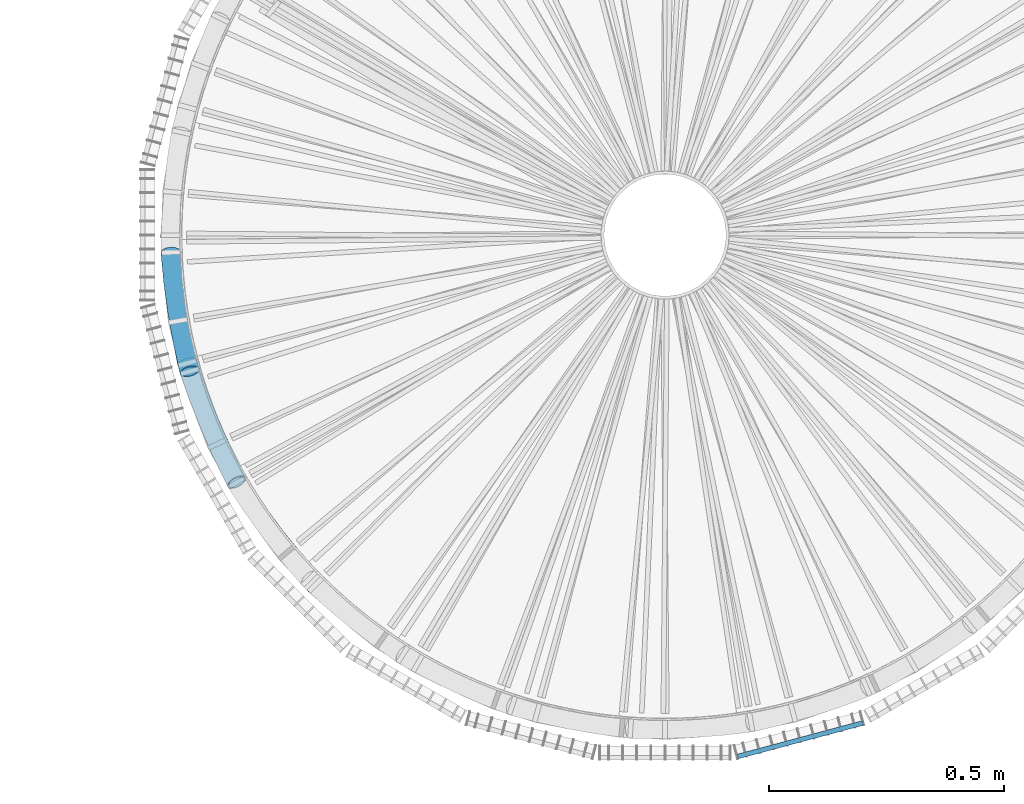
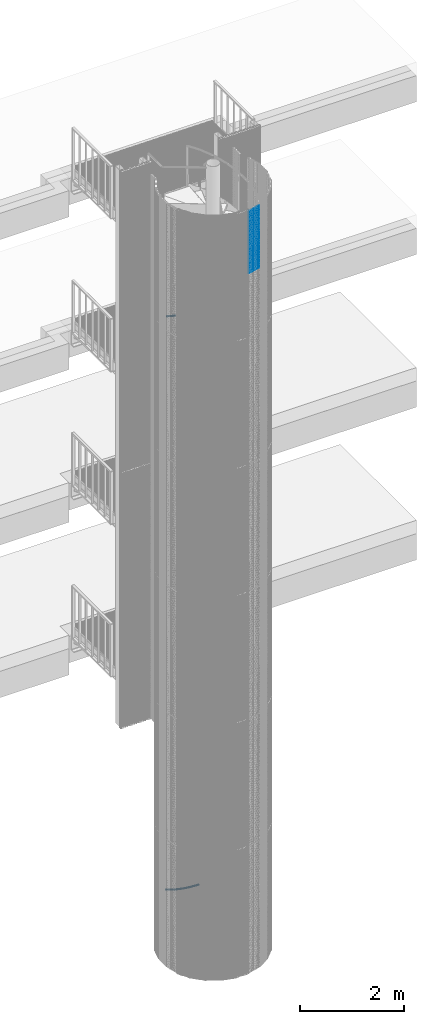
# One storey, part 135 of 1183: 50 beams, 4 members, 5 elements without a shape of their own.
"""IFC2X3 building model written with IfcOpenShell, lengths in millimetres."""

from ifc_helpers import new_model, entity, si_unit, frame, origin_with_axes, origin_2d_with_axis, place, context, subcontext, project, spatial, rectangle, extrude, material, type_object, element, aggregate, save


model = new_model("IFC2X3")

# Units and contexts
model_context = context("Model", 3, precision=1e-05, world=origin_with_axes())
body_context = subcontext(model_context, "Body", "Model", "MODEL_VIEW")
ifc_project = project(units=[si_unit("LENGTHUNIT", "METRE", prefix="MILLI"), si_unit("AREAUNIT", "SQUARE_METRE"), si_unit("VOLUMEUNIT", "CUBIC_METRE"), si_unit("MASSUNIT", "GRAM", prefix="KILO"), si_unit("TIMEUNIT", "SECOND"), si_unit("PLANEANGLEUNIT", "RADIAN"), si_unit("SOLIDANGLEUNIT", "STERADIAN"), si_unit("THERMODYNAMICTEMPERATUREUNIT", "DEGREE_CELSIUS"), si_unit("LUMINOUSINTENSITYUNIT", "LUMEN")], contexts=[model_context])

# Site, building, storey
site_placement = place(None, origin_with_axes())
site = spatial("IfcSite", under=ifc_project, at=site_placement, Name="Undefined", CompositionType="ELEMENT")
building_placement = place(site_placement, origin_with_axes())
building = spatial("IfcBuilding", under=site, at=building_placement, Name="Undefined", CompositionType="ELEMENT")
storey_placement = place(building_placement, origin_with_axes())
storey = spatial("IfcBuildingStorey", under=building, at=storey_placement, Name="Undefined", CompositionType="ELEMENT", Elevation=0.0)

# Assembly, beams
assembly_1_placement = place(storey_placement, origin_with_axes())
assembly_1 = element("IfcElementAssembly", 1, at=assembly_1_placement, inside=storey, Name="BORDURE", AssemblyPlace="NOTDEFINED", PredefinedType="NOTDEFINED")
ifc_material = material(Name="STEEL/S235JR")
beam_type = type_object("IfcBeamType", Name="PL2*10", PredefinedType="NOTDEFINED")
beam_1_placement = place(assembly_1_placement, frame((154.895926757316, -1111.25508286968, 17970.0), z_axis=(0.258819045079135, -0.965925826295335, 0.0), x_axis=(0.965925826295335, 0.258819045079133, 0.0)))
beam_1 = element("IfcBeam", 2, at=beam_1_placement, type_object=beam_type, material=ifc_material, Name="ENTRETOISE", context=body_context, shape_type="SweptSolid", body=[
    extrude(rectangle(XDim=2.0, YDim=10.0, at=origin_2d_with_axis()), frame((275.999999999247, 9.09494701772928e-13, 1.53210777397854e-14), z_axis=(-1.0, 0.0, 0.0), x_axis=(0.0, -1.0, 0.0)), (0.0, 0.0, 1.0), 276.0),
])
beam_2_placement = place(assembly_1_placement, frame((154.895926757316, -1111.25508286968, 17940.0), z_axis=(0.258819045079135, -0.965925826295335, 0.0), x_axis=(0.965925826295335, 0.258819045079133, 0.0)))
beam_2 = element("IfcBeam", 3, at=beam_2_placement, type_object=beam_type, material=ifc_material, Name="ENTRETOISE", context=body_context, shape_type="SweptSolid", body=[
    extrude(rectangle(XDim=2.0, YDim=10.0, at=origin_2d_with_axis()), frame((275.999999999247, 9.09494701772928e-13, 1.53210777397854e-14), z_axis=(-1.0, 0.0, 0.0), x_axis=(0.0, -1.0, 0.0)), (0.0, 0.0, 1.0), 276.0),
])
beam_3_placement = place(assembly_1_placement, frame((154.895926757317, -1111.25508286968, 17910.0), z_axis=(0.258819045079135, -0.965925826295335, 0.0), x_axis=(0.965925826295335, 0.258819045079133, 0.0)))
beam_3 = element("IfcBeam", 4, at=beam_3_placement, type_object=beam_type, material=ifc_material, Name="ENTRETOISE", context=body_context, shape_type="SweptSolid", body=[
    extrude(rectangle(XDim=2.0, YDim=10.0, at=origin_2d_with_axis()), frame((275.999999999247, 9.09494701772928e-13, 1.53210777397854e-14), z_axis=(-1.0, 0.0, 0.0), x_axis=(0.0, -1.0, 0.0)), (0.0, 0.0, 1.0), 276.0),
])
beam_4_placement = place(assembly_1_placement, frame((154.895926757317, -1111.25508286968, 17880.0), z_axis=(0.258819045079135, -0.965925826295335, 0.0), x_axis=(0.965925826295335, 0.258819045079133, 0.0)))
beam_4 = element("IfcBeam", 5, at=beam_4_placement, type_object=beam_type, material=ifc_material, Name="ENTRETOISE", context=body_context, shape_type="SweptSolid", body=[
    extrude(rectangle(XDim=2.0, YDim=10.0, at=origin_2d_with_axis()), frame((275.999999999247, 9.09494701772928e-13, 1.53210777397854e-14), z_axis=(-1.0, 0.0, 0.0), x_axis=(0.0, -1.0, 0.0)), (0.0, 0.0, 1.0), 276.0),
])
beam_5_placement = place(assembly_1_placement, frame((154.895926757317, -1111.25508286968, 17850.0), z_axis=(0.258819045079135, -0.965925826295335, 0.0), x_axis=(0.965925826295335, 0.258819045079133, 0.0)))
beam_5 = element("IfcBeam", 6, at=beam_5_placement, type_object=beam_type, material=ifc_material, Name="ENTRETOISE", context=body_context, shape_type="SweptSolid", body=[
    extrude(rectangle(XDim=2.0, YDim=10.0, at=origin_2d_with_axis()), frame((275.999999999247, 9.09494701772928e-13, 1.53210777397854e-14), z_axis=(-1.0, 0.0, 0.0), x_axis=(0.0, -1.0, 0.0)), (0.0, 0.0, 1.0), 276.0),
])
beam_6_placement = place(assembly_1_placement, frame((154.895926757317, -1111.25508286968, 17820.0), z_axis=(0.258819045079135, -0.965925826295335, 0.0), x_axis=(0.965925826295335, 0.258819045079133, 0.0)))
beam_6 = element("IfcBeam", 7, at=beam_6_placement, type_object=beam_type, material=ifc_material, Name="ENTRETOISE", context=body_context, shape_type="SweptSolid", body=[
    extrude(rectangle(XDim=2.0, YDim=10.0, at=origin_2d_with_axis()), frame((275.999999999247, 9.09494701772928e-13, 1.53210777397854e-14), z_axis=(-1.0, 0.0, 0.0), x_axis=(0.0, -1.0, 0.0)), (0.0, 0.0, 1.0), 276.0),
])
beam_7_placement = place(assembly_1_placement, frame((154.895926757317, -1111.25508286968, 17790.0), z_axis=(0.258819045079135, -0.965925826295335, 0.0), x_axis=(0.965925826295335, 0.258819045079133, 0.0)))
beam_7 = element("IfcBeam", 8, at=beam_7_placement, type_object=beam_type, material=ifc_material, Name="ENTRETOISE", context=body_context, shape_type="SweptSolid", body=[
    extrude(rectangle(XDim=2.0, YDim=10.0, at=origin_2d_with_axis()), frame((275.999999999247, 9.09494701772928e-13, 1.53210777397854e-14), z_axis=(-1.0, 0.0, 0.0), x_axis=(0.0, -1.0, 0.0)), (0.0, 0.0, 1.0), 276.0),
])
beam_8_placement = place(assembly_1_placement, frame((154.895926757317, -1111.25508286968, 17760.0), z_axis=(0.258819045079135, -0.965925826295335, 0.0), x_axis=(0.965925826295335, 0.258819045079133, 0.0)))
beam_8 = element("IfcBeam", 9, at=beam_8_placement, type_object=beam_type, material=ifc_material, Name="ENTRETOISE", context=body_context, shape_type="SweptSolid", body=[
    extrude(rectangle(XDim=2.0, YDim=10.0, at=origin_2d_with_axis()), frame((275.999999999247, 9.09494701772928e-13, 1.53210777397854e-14), z_axis=(-1.0, 0.0, 0.0), x_axis=(0.0, -1.0, 0.0)), (0.0, 0.0, 1.0), 276.0),
])
beam_9_placement = place(assembly_1_placement, frame((154.895926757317, -1111.25508286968, 17730.0), z_axis=(0.258819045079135, -0.965925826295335, 0.0), x_axis=(0.965925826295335, 0.258819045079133, 0.0)))
beam_9 = element("IfcBeam", 10, at=beam_9_placement, type_object=beam_type, material=ifc_material, Name="ENTRETOISE", context=body_context, shape_type="SweptSolid", body=[
    extrude(rectangle(XDim=2.0, YDim=10.0, at=origin_2d_with_axis()), frame((275.999999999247, 9.09494701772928e-13, 1.53210777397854e-14), z_axis=(-1.0, 0.0, 0.0), x_axis=(0.0, -1.0, 0.0)), (0.0, 0.0, 1.0), 276.0),
])
beam_10_placement = place(assembly_1_placement, frame((154.895926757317, -1111.25508286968, 17700.0), z_axis=(0.258819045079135, -0.965925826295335, 0.0), x_axis=(0.965925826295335, 0.258819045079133, 0.0)))
beam_10 = element("IfcBeam", 11, at=beam_10_placement, type_object=beam_type, material=ifc_material, Name="ENTRETOISE", context=body_context, shape_type="SweptSolid", body=[
    extrude(rectangle(XDim=2.0, YDim=10.0, at=origin_2d_with_axis()), frame((275.999999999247, 9.09494701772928e-13, 1.53210777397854e-14), z_axis=(-1.0, 0.0, 0.0), x_axis=(0.0, -1.0, 0.0)), (0.0, 0.0, 1.0), 276.0),
])
beam_11_placement = place(assembly_1_placement, frame((154.895926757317, -1111.25508286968, 17670.0), z_axis=(0.258819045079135, -0.965925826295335, 0.0), x_axis=(0.965925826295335, 0.258819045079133, 0.0)))
beam_11 = element("IfcBeam", 12, at=beam_11_placement, type_object=beam_type, material=ifc_material, Name="ENTRETOISE", context=body_context, shape_type="SweptSolid", body=[
    extrude(rectangle(XDim=2.0, YDim=10.0, at=origin_2d_with_axis()), frame((275.999999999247, 9.09494701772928e-13, 1.53210777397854e-14), z_axis=(-1.0, 0.0, 0.0), x_axis=(0.0, -1.0, 0.0)), (0.0, 0.0, 1.0), 276.0),
])
beam_12_placement = place(assembly_1_placement, frame((154.895926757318, -1111.25508286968, 17640.0), z_axis=(0.258819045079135, -0.965925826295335, 0.0), x_axis=(0.965925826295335, 0.258819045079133, 0.0)))
beam_12 = element("IfcBeam", 13, at=beam_12_placement, type_object=beam_type, material=ifc_material, Name="ENTRETOISE", context=body_context, shape_type="SweptSolid", body=[
    extrude(rectangle(XDim=2.0, YDim=10.0, at=origin_2d_with_axis()), frame((275.999999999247, 9.09494701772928e-13, 1.53210777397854e-14), z_axis=(-1.0, 0.0, 0.0), x_axis=(0.0, -1.0, 0.0)), (0.0, 0.0, 1.0), 276.0),
])
beam_13_placement = place(assembly_1_placement, frame((154.895926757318, -1111.25508286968, 17610.0), z_axis=(0.258819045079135, -0.965925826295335, 0.0), x_axis=(0.965925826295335, 0.258819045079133, 0.0)))
beam_13 = element("IfcBeam", 14, at=beam_13_placement, type_object=beam_type, material=ifc_material, Name="ENTRETOISE", context=body_context, shape_type="SweptSolid", body=[
    extrude(rectangle(XDim=2.0, YDim=10.0, at=origin_2d_with_axis()), frame((275.999999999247, 9.09494701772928e-13, 1.53210777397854e-14), z_axis=(-1.0, 0.0, 0.0), x_axis=(0.0, -1.0, 0.0)), (0.0, 0.0, 1.0), 276.0),
])
beam_14_placement = place(assembly_1_placement, frame((154.895926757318, -1111.25508286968, 17580.0), z_axis=(0.258819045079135, -0.965925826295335, 0.0), x_axis=(0.965925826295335, 0.258819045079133, 0.0)))
beam_14 = element("IfcBeam", 15, at=beam_14_placement, type_object=beam_type, material=ifc_material, Name="ENTRETOISE", context=body_context, shape_type="SweptSolid", body=[
    extrude(rectangle(XDim=2.0, YDim=10.0, at=origin_2d_with_axis()), frame((275.999999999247, 9.09494701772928e-13, 1.53210777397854e-14), z_axis=(-1.0, 0.0, 0.0), x_axis=(0.0, -1.0, 0.0)), (0.0, 0.0, 1.0), 276.0),
])
beam_15_placement = place(assembly_1_placement, frame((154.895926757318, -1111.25508286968, 17550.0), z_axis=(0.258819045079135, -0.965925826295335, 0.0), x_axis=(0.965925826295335, 0.258819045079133, 0.0)))
beam_15 = element("IfcBeam", 16, at=beam_15_placement, type_object=beam_type, material=ifc_material, Name="ENTRETOISE", context=body_context, shape_type="SweptSolid", body=[
    extrude(rectangle(XDim=2.0, YDim=10.0, at=origin_2d_with_axis()), frame((275.999999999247, 9.09494701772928e-13, 1.53210777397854e-14), z_axis=(-1.0, 0.0, 0.0), x_axis=(0.0, -1.0, 0.0)), (0.0, 0.0, 1.0), 276.0),
])
beam_16_placement = place(assembly_1_placement, frame((154.895926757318, -1111.25508286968, 17520.0), z_axis=(0.258819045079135, -0.965925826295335, 0.0), x_axis=(0.965925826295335, 0.258819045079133, 0.0)))
beam_16 = element("IfcBeam", 17, at=beam_16_placement, type_object=beam_type, material=ifc_material, Name="ENTRETOISE", context=body_context, shape_type="SweptSolid", body=[
    extrude(rectangle(XDim=2.0, YDim=10.0, at=origin_2d_with_axis()), frame((275.999999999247, 9.09494701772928e-13, 1.53210777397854e-14), z_axis=(-1.0, 0.0, 0.0), x_axis=(0.0, -1.0, 0.0)), (0.0, 0.0, 1.0), 276.0),
])
beam_17_placement = place(assembly_1_placement, frame((154.895926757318, -1111.25508286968, 17490.0), z_axis=(0.258819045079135, -0.965925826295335, 0.0), x_axis=(0.965925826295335, 0.258819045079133, 0.0)))
beam_17 = element("IfcBeam", 18, at=beam_17_placement, type_object=beam_type, material=ifc_material, Name="ENTRETOISE", context=body_context, shape_type="SweptSolid", body=[
    extrude(rectangle(XDim=2.0, YDim=10.0, at=origin_2d_with_axis()), frame((275.999999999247, 9.09494701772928e-13, 1.53210777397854e-14), z_axis=(-1.0, 0.0, 0.0), x_axis=(0.0, -1.0, 0.0)), (0.0, 0.0, 1.0), 276.0),
])
beam_18_placement = place(assembly_1_placement, frame((154.895926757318, -1111.25508286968, 17460.0), z_axis=(0.258819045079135, -0.965925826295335, 0.0), x_axis=(0.965925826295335, 0.258819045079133, 0.0)))
beam_18 = element("IfcBeam", 19, at=beam_18_placement, type_object=beam_type, material=ifc_material, Name="ENTRETOISE", context=body_context, shape_type="SweptSolid", body=[
    extrude(rectangle(XDim=2.0, YDim=10.0, at=origin_2d_with_axis()), frame((275.999999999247, 9.09494701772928e-13, 1.53210777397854e-14), z_axis=(-1.0, 0.0, 0.0), x_axis=(0.0, -1.0, 0.0)), (0.0, 0.0, 1.0), 276.0),
])
beam_19_placement = place(assembly_1_placement, frame((154.895926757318, -1111.25508286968, 17430.0), z_axis=(0.258819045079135, -0.965925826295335, 0.0), x_axis=(0.965925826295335, 0.258819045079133, 0.0)))
beam_19 = element("IfcBeam", 20, at=beam_19_placement, type_object=beam_type, material=ifc_material, Name="ENTRETOISE", context=body_context, shape_type="SweptSolid", body=[
    extrude(rectangle(XDim=2.0, YDim=10.0, at=origin_2d_with_axis()), frame((275.999999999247, 9.09494701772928e-13, 1.53210777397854e-14), z_axis=(-1.0, 0.0, 0.0), x_axis=(0.0, -1.0, 0.0)), (0.0, 0.0, 1.0), 276.0),
])
beam_20_placement = place(assembly_1_placement, frame((154.895926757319, -1111.25508286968, 17400.0), z_axis=(0.258819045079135, -0.965925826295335, 0.0), x_axis=(0.965925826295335, 0.258819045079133, 0.0)))
beam_20 = element("IfcBeam", 21, at=beam_20_placement, type_object=beam_type, material=ifc_material, Name="ENTRETOISE", context=body_context, shape_type="SweptSolid", body=[
    extrude(rectangle(XDim=2.0, YDim=10.0, at=origin_2d_with_axis()), frame((275.999999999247, 9.09494701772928e-13, 1.53210777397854e-14), z_axis=(-1.0, 0.0, 0.0), x_axis=(0.0, -1.0, 0.0)), (0.0, 0.0, 1.0), 276.0),
])
beam_21_placement = place(assembly_1_placement, frame((154.895926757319, -1111.25508286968, 17370.0), z_axis=(0.258819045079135, -0.965925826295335, 0.0), x_axis=(0.965925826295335, 0.258819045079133, 0.0)))
beam_21 = element("IfcBeam", 22, at=beam_21_placement, type_object=beam_type, material=ifc_material, Name="ENTRETOISE", context=body_context, shape_type="SweptSolid", body=[
    extrude(rectangle(XDim=2.0, YDim=10.0, at=origin_2d_with_axis()), frame((275.999999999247, 9.09494701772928e-13, 1.53210777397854e-14), z_axis=(-1.0, 0.0, 0.0), x_axis=(0.0, -1.0, 0.0)), (0.0, 0.0, 1.0), 276.0),
])
beam_22_placement = place(assembly_1_placement, frame((154.895926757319, -1111.25508286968, 17340.0), z_axis=(0.258819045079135, -0.965925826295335, 0.0), x_axis=(0.965925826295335, 0.258819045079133, 0.0)))
beam_22 = element("IfcBeam", 23, at=beam_22_placement, type_object=beam_type, material=ifc_material, Name="ENTRETOISE", context=body_context, shape_type="SweptSolid", body=[
    extrude(rectangle(XDim=2.0, YDim=10.0, at=origin_2d_with_axis()), frame((275.999999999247, 9.09494701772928e-13, 1.53210777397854e-14), z_axis=(-1.0, 0.0, 0.0), x_axis=(0.0, -1.0, 0.0)), (0.0, 0.0, 1.0), 276.0),
])
beam_23_placement = place(assembly_1_placement, frame((154.895926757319, -1111.25508286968, 17310.0), z_axis=(0.258819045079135, -0.965925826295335, 0.0), x_axis=(0.965925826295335, 0.258819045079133, 0.0)))
beam_23 = element("IfcBeam", 24, at=beam_23_placement, type_object=beam_type, material=ifc_material, Name="ENTRETOISE", context=body_context, shape_type="SweptSolid", body=[
    extrude(rectangle(XDim=2.0, YDim=10.0, at=origin_2d_with_axis()), frame((275.999999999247, 9.09494701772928e-13, 1.53210777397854e-14), z_axis=(-1.0, 0.0, 0.0), x_axis=(0.0, -1.0, 0.0)), (0.0, 0.0, 1.0), 276.0),
])
beam_24_placement = place(assembly_1_placement, frame((154.895926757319, -1111.25508286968, 17280.0), z_axis=(0.258819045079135, -0.965925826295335, 0.0), x_axis=(0.965925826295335, 0.258819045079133, 0.0)))
beam_24 = element("IfcBeam", 25, at=beam_24_placement, type_object=beam_type, material=ifc_material, Name="ENTRETOISE", context=body_context, shape_type="SweptSolid", body=[
    extrude(rectangle(XDim=2.0, YDim=10.0, at=origin_2d_with_axis()), frame((275.999999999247, 9.09494701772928e-13, 1.53210777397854e-14), z_axis=(-1.0, 0.0, 0.0), x_axis=(0.0, -1.0, 0.0)), (0.0, 0.0, 1.0), 276.0),
])
beam_25_placement = place(assembly_1_placement, frame((154.895926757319, -1111.25508286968, 17250.0), z_axis=(0.258819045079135, -0.965925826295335, 0.0), x_axis=(0.965925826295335, 0.258819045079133, 0.0)))
beam_25 = element("IfcBeam", 26, at=beam_25_placement, type_object=beam_type, material=ifc_material, Name="ENTRETOISE", context=body_context, shape_type="SweptSolid", body=[
    extrude(rectangle(XDim=2.0, YDim=10.0, at=origin_2d_with_axis()), frame((275.999999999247, 9.09494701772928e-13, 1.53210777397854e-14), z_axis=(-1.0, 0.0, 0.0), x_axis=(0.0, -1.0, 0.0)), (0.0, 0.0, 1.0), 276.0),
])
beam_26_placement = place(assembly_1_placement, frame((154.895926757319, -1111.25508286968, 17220.0), z_axis=(0.258819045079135, -0.965925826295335, 0.0), x_axis=(0.965925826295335, 0.258819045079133, 0.0)))
beam_26 = element("IfcBeam", 27, at=beam_26_placement, type_object=beam_type, material=ifc_material, Name="ENTRETOISE", context=body_context, shape_type="SweptSolid", body=[
    extrude(rectangle(XDim=2.0, YDim=10.0, at=origin_2d_with_axis()), frame((275.999999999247, 9.09494701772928e-13, 1.53210777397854e-14), z_axis=(-1.0, 0.0, 0.0), x_axis=(0.0, -1.0, 0.0)), (0.0, 0.0, 1.0), 276.0),
])
beam_27_placement = place(assembly_1_placement, frame((154.895926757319, -1111.25508286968, 17190.0), z_axis=(0.258819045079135, -0.965925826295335, 0.0), x_axis=(0.965925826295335, 0.258819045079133, 0.0)))
beam_27 = element("IfcBeam", 28, at=beam_27_placement, type_object=beam_type, material=ifc_material, Name="ENTRETOISE", context=body_context, shape_type="SweptSolid", body=[
    extrude(rectangle(XDim=2.0, YDim=10.0, at=origin_2d_with_axis()), frame((275.999999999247, 9.09494701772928e-13, 1.53210777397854e-14), z_axis=(-1.0, 0.0, 0.0), x_axis=(0.0, -1.0, 0.0)), (0.0, 0.0, 1.0), 276.0),
])
beam_28_placement = place(assembly_1_placement, frame((154.895926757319, -1111.25508286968, 17160.0), z_axis=(0.258819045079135, -0.965925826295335, 0.0), x_axis=(0.965925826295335, 0.258819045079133, 0.0)))
beam_28 = element("IfcBeam", 29, at=beam_28_placement, type_object=beam_type, material=ifc_material, Name="ENTRETOISE", context=body_context, shape_type="SweptSolid", body=[
    extrude(rectangle(XDim=2.0, YDim=10.0, at=origin_2d_with_axis()), frame((275.999999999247, 9.09494701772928e-13, 1.53210777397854e-14), z_axis=(-1.0, 0.0, 0.0), x_axis=(0.0, -1.0, 0.0)), (0.0, 0.0, 1.0), 276.0),
])
beam_29_placement = place(assembly_1_placement, frame((154.89592675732, -1111.25508286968, 17130.0), z_axis=(0.258819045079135, -0.965925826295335, 0.0), x_axis=(0.965925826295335, 0.258819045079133, 0.0)))
beam_29 = element("IfcBeam", 30, at=beam_29_placement, type_object=beam_type, material=ifc_material, Name="ENTRETOISE", context=body_context, shape_type="SweptSolid", body=[
    extrude(rectangle(XDim=2.0, YDim=10.0, at=origin_2d_with_axis()), frame((275.999999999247, 9.09494701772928e-13, 1.53210777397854e-14), z_axis=(-1.0, 0.0, 0.0), x_axis=(0.0, -1.0, 0.0)), (0.0, 0.0, 1.0), 276.0),
])
beam_30_placement = place(assembly_1_placement, frame((154.89592675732, -1111.25508286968, 17100.0), z_axis=(0.258819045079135, -0.965925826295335, 0.0), x_axis=(0.965925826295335, 0.258819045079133, 0.0)))
beam_30 = element("IfcBeam", 31, at=beam_30_placement, type_object=beam_type, material=ifc_material, Name="ENTRETOISE", context=body_context, shape_type="SweptSolid", body=[
    extrude(rectangle(XDim=2.0, YDim=10.0, at=origin_2d_with_axis()), frame((275.999999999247, 9.09494701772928e-13, 1.53210777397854e-14), z_axis=(-1.0, 0.0, 0.0), x_axis=(0.0, -1.0, 0.0)), (0.0, 0.0, 1.0), 276.0),
])
beam_31_placement = place(assembly_1_placement, frame((154.89592675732, -1111.25508286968, 17070.0), z_axis=(0.258819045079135, -0.965925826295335, 0.0), x_axis=(0.965925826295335, 0.258819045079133, 0.0)))
beam_31 = element("IfcBeam", 32, at=beam_31_placement, type_object=beam_type, material=ifc_material, Name="ENTRETOISE", context=body_context, shape_type="SweptSolid", body=[
    extrude(rectangle(XDim=2.0, YDim=10.0, at=origin_2d_with_axis()), frame((275.999999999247, 9.09494701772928e-13, 1.53210777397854e-14), z_axis=(-1.0, 0.0, 0.0), x_axis=(0.0, -1.0, 0.0)), (0.0, 0.0, 1.0), 276.0),
])
beam_32_placement = place(assembly_1_placement, frame((154.89592675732, -1111.25508286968, 17040.0), z_axis=(0.258819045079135, -0.965925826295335, 0.0), x_axis=(0.965925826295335, 0.258819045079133, 0.0)))
beam_32 = element("IfcBeam", 33, at=beam_32_placement, type_object=beam_type, material=ifc_material, Name="ENTRETOISE", context=body_context, shape_type="SweptSolid", body=[
    extrude(rectangle(XDim=2.0, YDim=10.0, at=origin_2d_with_axis()), frame((275.999999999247, 9.09494701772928e-13, 1.53210777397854e-14), z_axis=(-1.0, 0.0, 0.0), x_axis=(0.0, -1.0, 0.0)), (0.0, 0.0, 1.0), 276.0),
])
beam_33_placement = place(assembly_1_placement, frame((154.89592675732, -1111.25508286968, 17010.0), z_axis=(0.258819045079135, -0.965925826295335, 0.0), x_axis=(0.965925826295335, 0.258819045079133, 0.0)))
beam_33 = element("IfcBeam", 34, at=beam_33_placement, type_object=beam_type, material=ifc_material, Name="ENTRETOISE", context=body_context, shape_type="SweptSolid", body=[
    extrude(rectangle(XDim=2.0, YDim=10.0, at=origin_2d_with_axis()), frame((275.999999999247, 9.09494701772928e-13, 1.53210777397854e-14), z_axis=(-1.0, 0.0, 0.0), x_axis=(0.0, -1.0, 0.0)), (0.0, 0.0, 1.0), 276.0),
])
beam_34_placement = place(assembly_1_placement, frame((154.89592675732, -1111.25508286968, 16980.0), z_axis=(0.258819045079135, -0.965925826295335, 0.0), x_axis=(0.965925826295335, 0.258819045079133, 0.0)))
beam_34 = element("IfcBeam", 35, at=beam_34_placement, type_object=beam_type, material=ifc_material, Name="ENTRETOISE", context=body_context, shape_type="SweptSolid", body=[
    extrude(rectangle(XDim=2.0, YDim=10.0, at=origin_2d_with_axis()), frame((275.999999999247, 9.09494701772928e-13, 1.53210777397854e-14), z_axis=(-1.0, 0.0, 0.0), x_axis=(0.0, -1.0, 0.0)), (0.0, 0.0, 1.0), 276.0),
])
beam_35_placement = place(assembly_1_placement, frame((154.89592675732, -1111.25508286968, 16950.0), z_axis=(0.258819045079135, -0.965925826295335, 0.0), x_axis=(0.965925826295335, 0.258819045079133, 0.0)))
beam_35 = element("IfcBeam", 36, at=beam_35_placement, type_object=beam_type, material=ifc_material, Name="ENTRETOISE", context=body_context, shape_type="SweptSolid", body=[
    extrude(rectangle(XDim=2.0, YDim=10.0, at=origin_2d_with_axis()), frame((275.999999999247, 9.09494701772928e-13, 1.53210777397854e-14), z_axis=(-1.0, 0.0, 0.0), x_axis=(0.0, -1.0, 0.0)), (0.0, 0.0, 1.0), 276.0),
])
beam_36_placement = place(assembly_1_placement, frame((154.89592675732, -1111.25508286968, 16920.0), z_axis=(0.258819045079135, -0.965925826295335, 0.0), x_axis=(0.965925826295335, 0.258819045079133, 0.0)))
beam_36 = element("IfcBeam", 37, at=beam_36_placement, type_object=beam_type, material=ifc_material, Name="ENTRETOISE", context=body_context, shape_type="SweptSolid", body=[
    extrude(rectangle(XDim=2.0, YDim=10.0, at=origin_2d_with_axis()), frame((275.999999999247, 9.09494701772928e-13, 1.53210777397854e-14), z_axis=(-1.0, 0.0, 0.0), x_axis=(0.0, -1.0, 0.0)), (0.0, 0.0, 1.0), 276.0),
])
beam_37_placement = place(assembly_1_placement, frame((154.89592675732, -1111.25508286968, 16890.0), z_axis=(0.258819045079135, -0.965925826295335, 0.0), x_axis=(0.965925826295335, 0.258819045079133, 0.0)))
beam_37 = element("IfcBeam", 38, at=beam_37_placement, type_object=beam_type, material=ifc_material, Name="ENTRETOISE", context=body_context, shape_type="SweptSolid", body=[
    extrude(rectangle(XDim=2.0, YDim=10.0, at=origin_2d_with_axis()), frame((275.999999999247, 9.09494701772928e-13, 1.53210777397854e-14), z_axis=(-1.0, 0.0, 0.0), x_axis=(0.0, -1.0, 0.0)), (0.0, 0.0, 1.0), 276.0),
])
beam_38_placement = place(assembly_1_placement, frame((154.89592675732, -1111.25508286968, 16860.0), z_axis=(0.258819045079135, -0.965925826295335, 0.0), x_axis=(0.965925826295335, 0.258819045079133, 0.0)))
beam_38 = element("IfcBeam", 39, at=beam_38_placement, type_object=beam_type, material=ifc_material, Name="ENTRETOISE", context=body_context, shape_type="SweptSolid", body=[
    extrude(rectangle(XDim=2.0, YDim=10.0, at=origin_2d_with_axis()), frame((275.999999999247, 9.09494701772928e-13, 1.53210777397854e-14), z_axis=(-1.0, 0.0, 0.0), x_axis=(0.0, -1.0, 0.0)), (0.0, 0.0, 1.0), 276.0),
])
beam_39_placement = place(assembly_1_placement, frame((154.89592675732, -1111.25508286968, 16830.0), z_axis=(0.258819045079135, -0.965925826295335, 0.0), x_axis=(0.965925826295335, 0.258819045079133, 0.0)))
beam_39 = element("IfcBeam", 40, at=beam_39_placement, type_object=beam_type, material=ifc_material, Name="ENTRETOISE", context=body_context, shape_type="SweptSolid", body=[
    extrude(rectangle(XDim=2.0, YDim=10.0, at=origin_2d_with_axis()), frame((275.999999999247, 9.09494701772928e-13, 1.53210777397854e-14), z_axis=(-1.0, 0.0, 0.0), x_axis=(0.0, -1.0, 0.0)), (0.0, 0.0, 1.0), 276.0),
])
beam_40_placement = place(assembly_1_placement, frame((154.89592675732, -1111.25508286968, 16800.0), z_axis=(0.258819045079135, -0.965925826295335, 0.0), x_axis=(0.965925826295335, 0.258819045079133, 0.0)))
beam_40 = element("IfcBeam", 41, at=beam_40_placement, type_object=beam_type, material=ifc_material, Name="ENTRETOISE", context=body_context, shape_type="SweptSolid", body=[
    extrude(rectangle(XDim=2.0, YDim=10.0, at=origin_2d_with_axis()), frame((275.999999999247, 9.09494701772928e-13, 1.53210777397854e-14), z_axis=(-1.0, 0.0, 0.0), x_axis=(0.0, -1.0, 0.0)), (0.0, 0.0, 1.0), 276.0),
])
beam_41_placement = place(assembly_1_placement, frame((154.895926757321, -1111.25508286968, 16770.0), z_axis=(0.258819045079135, -0.965925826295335, 0.0), x_axis=(0.965925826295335, 0.258819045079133, 0.0)))
beam_41 = element("IfcBeam", 42, at=beam_41_placement, type_object=beam_type, material=ifc_material, Name="ENTRETOISE", context=body_context, shape_type="SweptSolid", body=[
    extrude(rectangle(XDim=2.0, YDim=10.0, at=origin_2d_with_axis()), frame((275.999999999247, 9.09494701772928e-13, 1.53210777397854e-14), z_axis=(-1.0, 0.0, 0.0), x_axis=(0.0, -1.0, 0.0)), (0.0, 0.0, 1.0), 276.0),
])
beam_42_placement = place(assembly_1_placement, frame((154.895926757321, -1111.25508286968, 16740.0), z_axis=(0.258819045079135, -0.965925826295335, 0.0), x_axis=(0.965925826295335, 0.258819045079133, 0.0)))
beam_42 = element("IfcBeam", 43, at=beam_42_placement, type_object=beam_type, material=ifc_material, Name="ENTRETOISE", context=body_context, shape_type="SweptSolid", body=[
    extrude(rectangle(XDim=2.0, YDim=10.0, at=origin_2d_with_axis()), frame((275.999999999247, 9.09494701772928e-13, 1.53210777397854e-14), z_axis=(-1.0, 0.0, 0.0), x_axis=(0.0, -1.0, 0.0)), (0.0, 0.0, 1.0), 276.0),
])
beam_43_placement = place(assembly_1_placement, frame((154.895926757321, -1111.25508286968, 16710.0), z_axis=(0.258819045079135, -0.965925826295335, 0.0), x_axis=(0.965925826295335, 0.258819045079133, 0.0)))
beam_43 = element("IfcBeam", 44, at=beam_43_placement, type_object=beam_type, material=ifc_material, Name="ENTRETOISE", context=body_context, shape_type="SweptSolid", body=[
    extrude(rectangle(XDim=2.0, YDim=10.0, at=origin_2d_with_axis()), frame((275.999999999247, 9.09494701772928e-13, 1.53210777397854e-14), z_axis=(-1.0, 0.0, 0.0), x_axis=(0.0, -1.0, 0.0)), (0.0, 0.0, 1.0), 276.0),
])
beam_44_placement = place(assembly_1_placement, frame((154.895926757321, -1111.25508286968, 16680.0), z_axis=(0.258819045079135, -0.965925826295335, 0.0), x_axis=(0.965925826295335, 0.258819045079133, 0.0)))
beam_44 = element("IfcBeam", 45, at=beam_44_placement, type_object=beam_type, material=ifc_material, Name="ENTRETOISE", context=body_context, shape_type="SweptSolid", body=[
    extrude(rectangle(XDim=2.0, YDim=10.0, at=origin_2d_with_axis()), frame((275.999999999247, 9.09494701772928e-13, 1.53210777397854e-14), z_axis=(-1.0, 0.0, 0.0), x_axis=(0.0, -1.0, 0.0)), (0.0, 0.0, 1.0), 276.0),
])
beam_45_placement = place(assembly_1_placement, frame((154.895926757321, -1111.25508286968, 16650.0), z_axis=(0.258819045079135, -0.965925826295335, 0.0), x_axis=(0.965925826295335, 0.258819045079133, 0.0)))
beam_45 = element("IfcBeam", 46, at=beam_45_placement, type_object=beam_type, material=ifc_material, Name="ENTRETOISE", context=body_context, shape_type="SweptSolid", body=[
    extrude(rectangle(XDim=2.0, YDim=10.0, at=origin_2d_with_axis()), frame((275.999999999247, 9.09494701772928e-13, 1.53210777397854e-14), z_axis=(-1.0, 0.0, 0.0), x_axis=(0.0, -1.0, 0.0)), (0.0, 0.0, 1.0), 276.0),
])
beam_46_placement = place(assembly_1_placement, frame((154.895926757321, -1111.25508286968, 16620.0), z_axis=(0.258819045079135, -0.965925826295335, 0.0), x_axis=(0.965925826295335, 0.258819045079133, 0.0)))
beam_46 = element("IfcBeam", 47, at=beam_46_placement, type_object=beam_type, material=ifc_material, Name="ENTRETOISE", context=body_context, shape_type="SweptSolid", body=[
    extrude(rectangle(XDim=2.0, YDim=10.0, at=origin_2d_with_axis()), frame((275.999999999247, 9.09494701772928e-13, 1.53210777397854e-14), z_axis=(-1.0, 0.0, 0.0), x_axis=(0.0, -1.0, 0.0)), (0.0, 0.0, 1.0), 276.0),
])
beam_47_placement = place(assembly_1_placement, frame((154.895926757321, -1111.25508286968, 16590.0), z_axis=(0.258819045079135, -0.965925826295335, 0.0), x_axis=(0.965925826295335, 0.258819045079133, 0.0)))
beam_47 = element("IfcBeam", 48, at=beam_47_placement, type_object=beam_type, material=ifc_material, Name="ENTRETOISE", context=body_context, shape_type="SweptSolid", body=[
    extrude(rectangle(XDim=2.0, YDim=10.0, at=origin_2d_with_axis()), frame((275.999999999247, 9.09494701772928e-13, 1.53210777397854e-14), z_axis=(-1.0, 0.0, 0.0), x_axis=(0.0, -1.0, 0.0)), (0.0, 0.0, 1.0), 276.0),
])
beam_48_placement = place(assembly_1_placement, frame((154.895926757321, -1111.25508286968, 16560.0), z_axis=(0.258819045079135, -0.965925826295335, 0.0), x_axis=(0.965925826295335, 0.258819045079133, 0.0)))
beam_48 = element("IfcBeam", 49, at=beam_48_placement, type_object=beam_type, material=ifc_material, Name="ENTRETOISE", context=body_context, shape_type="SweptSolid", body=[
    extrude(rectangle(XDim=2.0, YDim=10.0, at=origin_2d_with_axis()), frame((275.999999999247, 9.09494701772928e-13, 1.53210777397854e-14), z_axis=(-1.0, 0.0, 0.0), x_axis=(0.0, -1.0, 0.0)), (0.0, 0.0, 1.0), 276.0),
])
beam_49_placement = place(assembly_1_placement, frame((154.895926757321, -1111.25508286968, 16530.0), z_axis=(0.258819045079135, -0.965925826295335, 0.0), x_axis=(0.965925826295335, 0.258819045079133, 0.0)))
beam_49 = element("IfcBeam", 50, at=beam_49_placement, type_object=beam_type, material=ifc_material, Name="ENTRETOISE", context=body_context, shape_type="SweptSolid", body=[
    extrude(rectangle(XDim=2.0, YDim=10.0, at=origin_2d_with_axis()), frame((275.999999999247, 9.09494701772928e-13, 1.53210777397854e-14), z_axis=(-1.0, 0.0, 0.0), x_axis=(0.0, -1.0, 0.0)), (0.0, 0.0, 1.0), 276.0),
])
beam_50_placement = place(assembly_1_placement, frame((154.895926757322, -1111.25508286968, 16500.0), z_axis=(0.258819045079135, -0.965925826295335, 0.0), x_axis=(0.965925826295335, 0.258819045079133, 0.0)))
beam_50 = element("IfcBeam", 51, at=beam_50_placement, type_object=beam_type, material=ifc_material, Name="ENTRETOISE", context=body_context, shape_type="SweptSolid", body=[
    extrude(rectangle(XDim=2.0, YDim=10.0, at=origin_2d_with_axis()), frame((275.999999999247, 9.09494701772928e-13, 1.53210777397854e-14), z_axis=(-1.0, 0.0, 0.0), x_axis=(0.0, -1.0, 0.0)), (0.0, 0.0, 1.0), 276.0),
])
aggregate(assembly_1, [beam_1, beam_2, beam_3, beam_4, beam_5, beam_6, beam_7, beam_8, beam_9, beam_10, beam_11, beam_12, beam_13, beam_14, beam_15, beam_16, beam_17, beam_18, beam_19, beam_20, beam_21, beam_22, beam_23, beam_24, beam_25, beam_26, beam_27, beam_28, beam_29, beam_30, beam_31, beam_32, beam_33, beam_34, beam_35, beam_36, beam_37, beam_38, beam_39, beam_40, beam_41, beam_42, beam_43, beam_44, beam_45, beam_46, beam_47, beam_48, beam_49, beam_50])

# Assembly, member
assembly_2_placement = place(storey_placement, origin_with_axes())
assembly_2 = element("IfcElementAssembly", 52, at=assembly_2_placement, inside=storey, Name="MONTANT", AssemblyPlace="NOTDEFINED", PredefinedType="NOTDEFINED")
member_type = type_object("IfcMemberType", Name="TUBE-42.4*3.2", PredefinedType="NOTDEFINED")
member_1_placement = place(assembly_2_placement, frame((-1053.35793169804, -36.7840695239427, 15259.5600000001), z_axis=(-0.987688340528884, -0.156434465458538, 3.20831532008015e-10), x_axis=(0.133592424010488, -0.843469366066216, 0.520300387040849)))
member_1 = element("IfcMember", 53, at=member_1_placement, type_object=member_type, material=ifc_material, Name="MAIN_COURANTE", context=body_context, shape_type="SweptSolid", body=[
    entity("IfcRevolvedAreaSolid", entity("IfcCircleHollowProfileDef", "AREA", None, entity("IfcAxis2Placement2D", entity("IfcCartesianPoint", [0.0, 0.0]), entity("IfcDirection", [1.0, 0.0])), 21.200000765, 3.200000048), entity("IfcAxis2Placement3D", entity("IfcCartesianPoint", [300.826222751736, 9.26193911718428e-13, -2.55538133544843e-15]), entity("IfcDirection", [-0.997451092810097, -5.56582410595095e-17, 0.0713534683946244]), entity("IfcDirection", [0.0, -1.0, 0.0])), entity("IfcAxis1Placement", entity("IfcCartesianPoint", [0.0, -2108.0, 0.0]), entity("IfcDirection", [1.0, 0.0, 0.0])), 0.142828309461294),
])
aggregate(assembly_2, [member_1])

assembly_3_placement = place(storey_placement, origin_with_axes())
assembly_3 = element("IfcElementAssembly", 54, at=assembly_3_placement, inside=storey, Name="MONTANT", AssemblyPlace="NOTDEFINED", PredefinedType="NOTDEFINED")
member_2_placement = place(assembly_3_placement, frame((-912.790775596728, -527.000000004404, 2027.11999999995), z_axis=(-0.793353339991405, -0.608761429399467, -1.80915776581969e-10), x_axis=(0.530788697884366, -0.691737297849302, 0.489655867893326)))
member_2 = element("IfcMember", 55, at=member_2_placement, type_object=member_type, material=ifc_material, Name="MAIN_COURANTE", context=body_context, shape_type="SweptSolid", body=[
    entity("IfcRevolvedAreaSolid", entity("IfcCircleHollowProfileDef", "AREA", None, entity("IfcAxis2Placement2D", entity("IfcCartesianPoint", [0.0, 0.0]), entity("IfcDirection", [1.0, 0.0])), 21.200000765, 3.200000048), entity("IfcAxis2Placement3D", entity("IfcCartesianPoint", [315.568566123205, -9.09494701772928e-13, -1.31255851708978e-15]), entity("IfcDirection", [-0.997194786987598, -4.44488503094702e-18, 0.0748502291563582]), entity("IfcDirection", [0.0, -1.0, 0.0])), entity("IfcAxis1Placement", entity("IfcCartesianPoint", [0.0, -2108.0, 0.0]), entity("IfcDirection", [1.0, 0.0, 0.0])), 0.149840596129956),
])
aggregate(assembly_3, [member_2])

assembly_4_placement = place(storey_placement, origin_with_axes())
assembly_4 = element("IfcElementAssembly", 56, at=assembly_4_placement, inside=storey, Name="MONTANT", AssemblyPlace="NOTDEFINED", PredefinedType="NOTDEFINED")
member_3_placement = place(assembly_4_placement, frame((-1018.08582090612, -272.795273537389, 1872.60000000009), z_axis=(-0.923879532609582, -0.382683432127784, -1.50203959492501e-10), x_axis=(0.333667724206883, -0.805545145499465, 0.489655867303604)))
member_3 = element("IfcMember", 57, at=member_3_placement, type_object=member_type, material=ifc_material, Name="MAIN_COURANTE", context=body_context, shape_type="SweptSolid", body=[
    entity("IfcRevolvedAreaSolid", entity("IfcCircleHollowProfileDef", "AREA", None, entity("IfcAxis2Placement2D", entity("IfcCartesianPoint", [0.0, 0.0]), entity("IfcDirection", [1.0, 0.0])), 21.200000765, 3.200000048), entity("IfcAxis2Placement3D", entity("IfcCartesianPoint", [315.568566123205, -9.09494701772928e-13, -1.31255851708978e-15]), entity("IfcDirection", [-0.997194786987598, -4.44488503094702e-18, 0.0748502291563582]), entity("IfcDirection", [0.0, -1.0, 0.0])), entity("IfcAxis1Placement", entity("IfcCartesianPoint", [0.0, -2108.0, 0.0]), entity("IfcDirection", [1.0, 0.0, 0.0])), 0.14984059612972),
])
aggregate(assembly_4, [member_3])

assembly_5_placement = place(storey_placement, origin_with_axes())
assembly_5 = element("IfcElementAssembly", 58, at=assembly_5_placement, inside=storey, Name="MONTANT", AssemblyPlace="NOTDEFINED", PredefinedType="NOTDEFINED")
member_4_placement = place(assembly_5_placement, frame((-1054.0000000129, -2.56306975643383e-10, 1718.08000000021), z_axis=(-0.991444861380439, -0.130526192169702, -6.66004780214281e-11), x_axis=(0.11380784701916, -0.864456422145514, 0.489655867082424)))
member_4 = element("IfcMember", 59, at=member_4_placement, type_object=member_type, material=ifc_material, Name="MAIN_COURANTE", context=body_context, shape_type="SweptSolid", body=[
    entity("IfcRevolvedAreaSolid", entity("IfcCircleHollowProfileDef", "AREA", None, entity("IfcAxis2Placement2D", entity("IfcCartesianPoint", [0.0, 0.0]), entity("IfcDirection", [1.0, 0.0])), 21.200000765, 3.200000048), entity("IfcAxis2Placement3D", entity("IfcCartesianPoint", [315.568566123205, -9.09494701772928e-13, -1.31255851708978e-15]), entity("IfcDirection", [-0.997194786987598, -4.44488503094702e-18, 0.0748502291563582]), entity("IfcDirection", [0.0, -1.0, 0.0])), entity("IfcAxis1Placement", entity("IfcCartesianPoint", [0.0, -2108.0, 0.0]), entity("IfcDirection", [1.0, 0.0, 0.0])), 0.149840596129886),
])
aggregate(assembly_5, [member_4])

save(model, "model.ifc")
